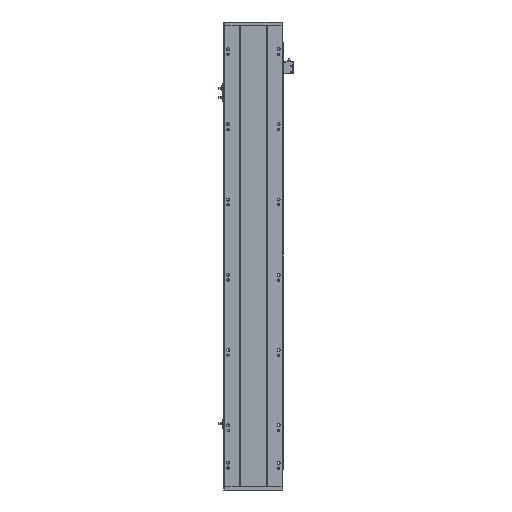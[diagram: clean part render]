
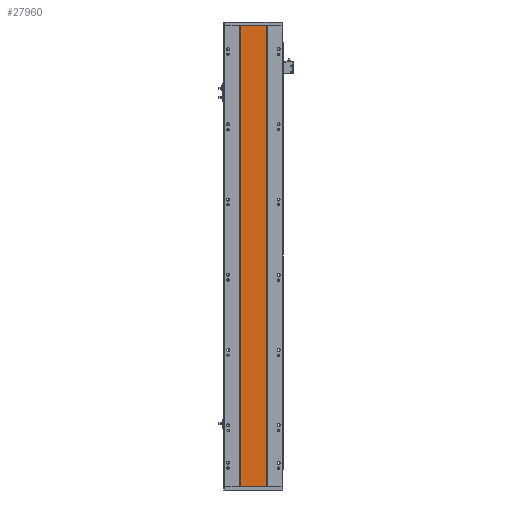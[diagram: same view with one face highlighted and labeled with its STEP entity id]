
A CAD part, front view. The second image highlights one B-rep face of the part: STEP entity #27960.
In plain terms, the highlighted planar face has unit normal (0, -1, 0).
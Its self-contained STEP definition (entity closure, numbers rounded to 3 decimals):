
#1757 = DIRECTION ( 'NONE',  ( 1., 0., 0. ) ) ;
#2150 = CARTESIAN_POINT ( 'NONE',  ( 205.288, 16.9, 1324. ) ) ;
#3012 = DIRECTION ( 'NONE',  ( 1., 0., 0. ) ) ;
#3692 = ORIENTED_EDGE ( 'NONE', *, *, #26298, .T. ) ;
#4949 = AXIS2_PLACEMENT_3D ( 'NONE', #17091, #20125, #22455 ) ;
#5144 = EDGE_CURVE ( 'NONE', #23716, #15681, #25312, .T. ) ;
#7179 = LINE ( 'NONE', #8249, #19662 ) ;
#7213 = LINE ( 'NONE', #2150, #8055 ) ;
#8055 = VECTOR ( 'NONE', #10071, 1000. ) ;
#8249 = CARTESIAN_POINT ( 'NONE',  ( 205.288, 16.9, 0. ) ) ;
#8854 = CARTESIAN_POINT ( 'NONE',  ( 129.288, 16.9, 0. ) ) ;
#10071 = DIRECTION ( 'NONE',  ( 0., 0., -1. ) ) ;
#14455 = PLANE ( 'NONE',  #4949 ) ;
#15075 = EDGE_LOOP ( 'NONE', ( #22063, #18649, #20955, #3692 ) ) ;
#15242 = CARTESIAN_POINT ( 'NONE',  ( 129.288, 16.9, 1324. ) ) ;
#15681 = VERTEX_POINT ( 'NONE', #25154 ) ;
#16689 = VERTEX_POINT ( 'NONE', #30752 ) ;
#17007 = DIRECTION ( 'NONE',  ( 0., 0., -1. ) ) ;
#17091 = CARTESIAN_POINT ( 'NONE',  ( 205.288, 16.9, 1324. ) ) ;
#18267 = VECTOR ( 'NONE', #1757, 1000. ) ;
#18349 = EDGE_CURVE ( 'NONE', #15681, #16689, #7213, .T. ) ;
#18649 = ORIENTED_EDGE ( 'NONE', *, *, #18349, .F. ) ;
#18710 = EDGE_CURVE ( 'NONE', #24319, #16689, #7179, .T. ) ;
#19662 = VECTOR ( 'NONE', #3012, 1000. ) ;
#20125 = DIRECTION ( 'NONE',  ( 0., 1., 0. ) ) ;
#20955 = ORIENTED_EDGE ( 'NONE', *, *, #5144, .F. ) ;
#21592 = CARTESIAN_POINT ( 'NONE',  ( 129.288, 16.9, 1324. ) ) ;
#22063 = ORIENTED_EDGE ( 'NONE', *, *, #18710, .T. ) ;
#22455 = DIRECTION ( 'NONE',  ( -1., 0., 0. ) ) ;
#23716 = VERTEX_POINT ( 'NONE', #26572 ) ;
#24270 = VECTOR ( 'NONE', #17007, 1000. ) ;
#24319 = VERTEX_POINT ( 'NONE', #8854 ) ;
#25154 = CARTESIAN_POINT ( 'NONE',  ( 205.288, 16.9, 1324. ) ) ;
#25312 = LINE ( 'NONE', #15242, #18267 ) ;
#26298 = EDGE_CURVE ( 'NONE', #23716, #24319, #28779, .T. ) ;
#26572 = CARTESIAN_POINT ( 'NONE',  ( 129.288, 16.9, 1324. ) ) ;
#27960 = ADVANCED_FACE ( 'NONE', ( #34143 ), #14455, .F. ) ;
#28779 = LINE ( 'NONE', #21592, #24270 ) ;
#30752 = CARTESIAN_POINT ( 'NONE',  ( 205.288, 16.9, 0. ) ) ;
#34143 = FACE_OUTER_BOUND ( 'NONE', #15075, .T. ) ;
